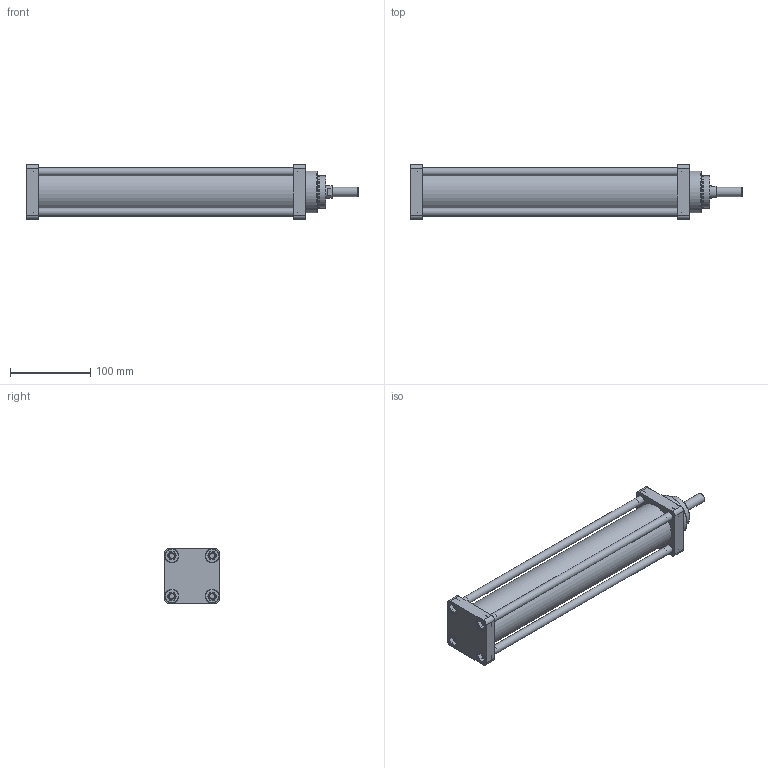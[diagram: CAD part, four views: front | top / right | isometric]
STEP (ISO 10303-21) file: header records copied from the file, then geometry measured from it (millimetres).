
FILE_DESCRIPTION(/* description */ (''),/* implementation_level */ '2;1');
FILE_NAME(/* name */ 'C:/Users/DLL/YandexDisk/Traceparts/Pnömatikler/SelfPublishingProductsCatalogBasicTemplate_KINETICTR.xlsm/TLSK_2K_50_500.step',/* time_stamp */ '2022-10-02T18:37:38+03:00',/* author */ (''),/* organization */ (''),/* preprocessor_version */ 'ST-DEVELOPER v19',/* originating_system */ 'Autodesk Translation Framework v11.7.0.108',/* authorisation */ '');
FILE_SCHEMA (('AUTOMOTIVE_DESIGN { 1 0 10303 214 3 1 1 }'));
Length unit declared in the file: millimetre
Products named in the file (22): TLSK_2K_50_1000_WEB; 50_ARKA_KAPAK_yuv_boru; Component2; 50_ON_KAPAK_yuv_boru; pap_40_12; KASTAS-K103-040; CIVATA; Ø50XØ55_1000_AL_BORU_WEB; Component1; SAPLAMA_Ø10_WEB; Component1_1; SAPLAMA_Ø10_WEB v1(Mirror); Component1(Mirror); SAPLAMA_Ø10_WEB v1(Mirror) (1); Component1(Mirror) (1); SAPLAMA_Ø10_WEB v1(Mirror)(Mirror); Component1(Mirror)(Mirror); Ø16_1000_KROM_MİL_WEB; Component1_2; 50_1000_26boru_kapak_WEB; Ø40XØ35_1000_BORU_WEB; Component1_3
Assembly tree (28 placements, depth 3):
  TLSK_2K_50_1000_WEB
    50_ARKA_KAPAK_yuv_boru
      Component2
    50_ON_KAPAK_yuv_boru
      pap_40_12
      KASTAS-K103-040
    CIVATA  x8
    Ø50XØ55_1000_AL_BORU_WEB
      Component1
    SAPLAMA_Ø10_WEB
      Component1_1
    SAPLAMA_Ø10_WEB v1(Mirror)
      Component1(Mirror)
    SAPLAMA_Ø10_WEB v1(Mirror) (1)
      Component1(Mirror) (1)
    SAPLAMA_Ø10_WEB v1(Mirror)(Mirror)
      Component1(Mirror)(Mirror)
    Ø16_1000_KROM_MİL_WEB
      Component1_2
    50_1000_26boru_kapak_WEB
    Ø40XØ35_1000_BORU_WEB
      Component1_3
Bounding box: 413 x 68 x 68 mm (x, y, z)
Volume: 401513.9 mm3; surface area: 239090.4 mm2
Topology: 23 solids, 23 shells, 813 faces, 2076 edges, 1370 vertices
Faces by surface type: plane 309, bspline 303, cylinder 121, cone 70, torus 10
Full cylindrical faces by diameter (mm): 3 x4, 4 x2, 6.779 x8, 6.8 x8, 7.866 x1, 8 x8, 8.526 x4, 8.707 x2, 10 x4, 10.45 x1, 10.5 x4, 11.834 x1, 12 x8, 16 x1, 16.6 x1, 17 x8, 17.5 x8, 17.7 x1, 18 x1, 20.5 x1, 25.7 x1, 30 x1, 32 x1, 35 x1, 35.035 x1, 35.884 x1, 36 x1, 38.85 x1, 40 x3, 40.2 x1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
Entity records: 34372 total; most frequent: CARTESIAN_POINT 18790, ORIENTED_EDGE 3548, DIRECTION 2317, EDGE_CURVE 1774, VERTEX_POINT 1181, EDGE_LOOP 797, AXIS2_PLACEMENT_3D 783, LINE 751
